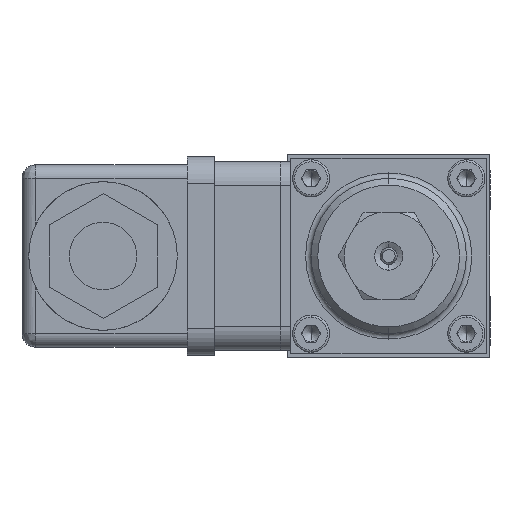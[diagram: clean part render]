
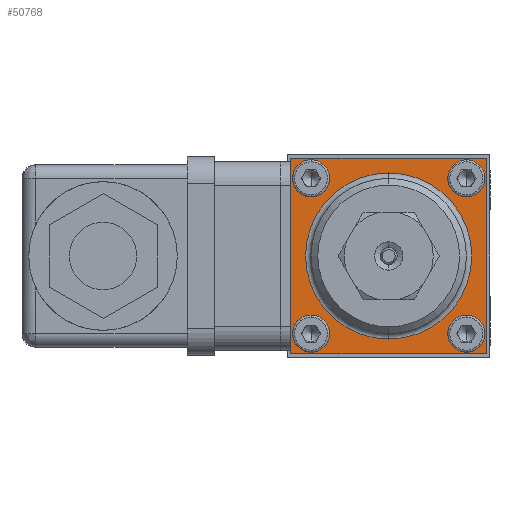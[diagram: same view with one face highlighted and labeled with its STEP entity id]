
A CAD part, left-side view. The second image highlights one B-rep face of the part: STEP entity #50768.
In plain terms, the highlighted planar face has unit normal (-1, 0, 0).
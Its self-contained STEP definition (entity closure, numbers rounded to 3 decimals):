
#605 = ORIENTED_EDGE ( 'NONE', *, *, #33980, .T. ) ;
#1537 = VERTEX_POINT ( 'NONE', #54606 ) ;
#1600 = DIRECTION ( 'NONE',  ( 1., 0., 0. ) ) ;
#2518 = CIRCLE ( 'NONE', #70695, 2.75 ) ;
#2929 = LINE ( 'NONE', #14350, #18624 ) ;
#3414 = AXIS2_PLACEMENT_3D ( 'NONE', #65680, #30337, #71715 ) ;
#3416 = AXIS2_PLACEMENT_3D ( 'NONE', #36971, #1600, #42904 ) ;
#5012 = FACE_BOUND ( 'NONE', #57733, .T. ) ;
#5035 = CIRCLE ( 'NONE', #69188, 2.75 ) ;
#6426 = CARTESIAN_POINT ( 'NONE',  ( -35., 26.5, -26.5 ) ) ;
#9508 = CARTESIAN_POINT ( 'NONE',  ( -35., 15., -15. ) ) ;
#9590 = VERTEX_POINT ( 'NONE', #71893 ) ;
#9738 = AXIS2_PLACEMENT_3D ( 'NONE', #58715, #23371, #64662 ) ;
#9949 = CARTESIAN_POINT ( 'NONE',  ( -35., 29.5, -29.5 ) ) ;
#12369 = DIRECTION ( 'NONE',  ( 0., 0., 1. ) ) ;
#13495 = EDGE_CURVE ( 'NONE', #24941, #9590, #41111, .T. ) ;
#14350 = CARTESIAN_POINT ( 'NONE',  ( -35., -0.207, -29.5 ) ) ;
#14520 = LINE ( 'NONE', #60468, #28409 ) ;
#15445 = DIRECTION ( 'NONE',  ( 0., 0., 1. ) ) ;
#17441 = CARTESIAN_POINT ( 'NONE',  ( -35., 26.5, -3.5 ) ) ;
#17575 = EDGE_CURVE ( 'NONE', #28298, #71263, #65148, .T. ) ;
#18624 = VECTOR ( 'NONE', #73849, 1000. ) ;
#19302 = ORIENTED_EDGE ( 'NONE', *, *, #38219, .T. ) ;
#19479 = DIRECTION ( 'NONE',  ( -1., 0., 0. ) ) ;
#20609 = EDGE_LOOP ( 'NONE', ( #68644, #24915 ) ) ;
#20736 = FACE_OUTER_BOUND ( 'NONE', #48987, .T. ) ;
#21462 = CARTESIAN_POINT ( 'NONE',  ( -35., 15., -27.3 ) ) ;
#23008 = DIRECTION ( 'NONE',  ( 0., 0., 1. ) ) ;
#23155 = EDGE_CURVE ( 'NONE', #72877, #50706, #2518, .T. ) ;
#23241 = CARTESIAN_POINT ( 'NONE',  ( -35., 26.5, -26.5 ) ) ;
#23291 = EDGE_CURVE ( 'NONE', #52520, #1537, #64372, .T. ) ;
#23371 = DIRECTION ( 'NONE',  ( -1., 0., 0. ) ) ;
#24159 = DIRECTION ( 'NONE',  ( 0., 1., 0. ) ) ;
#24748 = CARTESIAN_POINT ( 'NONE',  ( -35., 3.5, -23.75 ) ) ;
#24915 = ORIENTED_EDGE ( 'NONE', *, *, #23155, .F. ) ;
#24941 = VERTEX_POINT ( 'NONE', #36713 ) ;
#27023 = EDGE_CURVE ( 'NONE', #64526, #47846, #14520, .T. ) ;
#27035 = CARTESIAN_POINT ( 'NONE',  ( -35., 15., -2.7 ) ) ;
#28298 = VERTEX_POINT ( 'NONE', #24748 ) ;
#28409 = VECTOR ( 'NONE', #40316, 1000. ) ;
#29151 = CARTESIAN_POINT ( 'NONE',  ( -35., 0.5, -0.5 ) ) ;
#29826 = CARTESIAN_POINT ( 'NONE',  ( -35., -0.207, -0.5 ) ) ;
#30183 = ORIENTED_EDGE ( 'NONE', *, *, #62504, .F. ) ;
#30337 = DIRECTION ( 'NONE',  ( -1., 0., 0. ) ) ;
#30361 = CARTESIAN_POINT ( 'NONE',  ( -35., 0.5, -29.5 ) ) ;
#30588 = LINE ( 'NONE', #66244, #44430 ) ;
#31675 = EDGE_LOOP ( 'NONE', ( #68467, #71894 ) ) ;
#31696 = ORIENTED_EDGE ( 'NONE', *, *, #23291, .F. ) ;
#33672 = PLANE ( 'NONE',  #37215 ) ;
#33930 = DIRECTION ( 'NONE',  ( -1., 0., 0. ) ) ;
#33980 = EDGE_CURVE ( 'NONE', #55370, #47846, #39417, .T. ) ;
#34598 = FACE_BOUND ( 'NONE', #20609, .T. ) ;
#34813 = DIRECTION ( 'NONE',  ( -1., 0., 0. ) ) ;
#36440 = FACE_BOUND ( 'NONE', #31675, .T. ) ;
#36713 = CARTESIAN_POINT ( 'NONE',  ( -35., 26.5, -0.75 ) ) ;
#36971 = CARTESIAN_POINT ( 'NONE',  ( -35., 15., -15. ) ) ;
#37215 = AXIS2_PLACEMENT_3D ( 'NONE', #69339, #33930, #75324 ) ;
#37947 = AXIS2_PLACEMENT_3D ( 'NONE', #9508, #50806, #15445 ) ;
#38219 = EDGE_CURVE ( 'NONE', #62234, #46563, #67020, .T. ) ;
#38398 = CIRCLE ( 'NONE', #44127, 2.75 ) ;
#39417 = LINE ( 'NONE', #29826, #55110 ) ;
#39611 = CIRCLE ( 'NONE', #3416, 12.3 ) ;
#39962 = ORIENTED_EDGE ( 'NONE', *, *, #13495, .F. ) ;
#40316 = DIRECTION ( 'NONE',  ( 0., 0., 1. ) ) ;
#41111 = CIRCLE ( 'NONE', #66266, 2.75 ) ;
#41364 = ORIENTED_EDGE ( 'NONE', *, *, #70932, .F. ) ;
#42479 = CARTESIAN_POINT ( 'NONE',  ( -35., 3.5, -6.25 ) ) ;
#42904 = DIRECTION ( 'NONE',  ( 0., 0., 1. ) ) ;
#43707 = EDGE_CURVE ( 'NONE', #71263, #28298, #74066, .T. ) ;
#44127 = AXIS2_PLACEMENT_3D ( 'NONE', #54859, #19479, #60801 ) ;
#44430 = VECTOR ( 'NONE', #60319, 1000. ) ;
#44721 = CARTESIAN_POINT ( 'NONE',  ( -35., 29.5, -0.5 ) ) ;
#45606 = ORIENTED_EDGE ( 'NONE', *, *, #55504, .T. ) ;
#46563 = VERTEX_POINT ( 'NONE', #27035 ) ;
#47018 = CARTESIAN_POINT ( 'NONE',  ( -35., 26.5, -29.25 ) ) ;
#47751 = DIRECTION ( 'NONE',  ( -1., 0., 0. ) ) ;
#47846 = VERTEX_POINT ( 'NONE', #44721 ) ;
#48987 = EDGE_LOOP ( 'NONE', ( #45606, #605, #62588, #41364 ) ) ;
#49138 = EDGE_CURVE ( 'NONE', #9590, #24941, #61641, .T. ) ;
#49371 = AXIS2_PLACEMENT_3D ( 'NONE', #23241, #34813, #76761 ) ;
#50290 = FACE_BOUND ( 'NONE', #71106, .T. ) ;
#50327 = DIRECTION ( 'NONE',  ( -1., 0., 0. ) ) ;
#50465 = EDGE_CURVE ( 'NONE', #50706, #72877, #38398, .T. ) ;
#50706 = VERTEX_POINT ( 'NONE', #62593 ) ;
#50768 = ADVANCED_FACE ( 'NONE', ( #65993, #36440, #50290, #34598, #20736, #5012 ), #33672, .T. ) ;
#50806 = DIRECTION ( 'NONE',  ( 1., 0., 0. ) ) ;
#52520 = VERTEX_POINT ( 'NONE', #47018 ) ;
#53388 = DIRECTION ( 'NONE',  ( -1., 0., 0. ) ) ;
#53783 = EDGE_LOOP ( 'NONE', ( #39962, #54382 ) ) ;
#54382 = ORIENTED_EDGE ( 'NONE', *, *, #49138, .F. ) ;
#54606 = CARTESIAN_POINT ( 'NONE',  ( -35., 26.5, -23.75 ) ) ;
#54859 = CARTESIAN_POINT ( 'NONE',  ( -35., 3.5, -3.5 ) ) ;
#55110 = VECTOR ( 'NONE', #24159, 1000. ) ;
#55370 = VERTEX_POINT ( 'NONE', #29151 ) ;
#55504 = EDGE_CURVE ( 'NONE', #65728, #55370, #30588, .T. ) ;
#57733 = EDGE_LOOP ( 'NONE', ( #63294, #19302 ) ) ;
#58715 = CARTESIAN_POINT ( 'NONE',  ( -35., 3.5, -26.5 ) ) ;
#58745 = DIRECTION ( 'NONE',  ( 0., 0., 1. ) ) ;
#60313 = AXIS2_PLACEMENT_3D ( 'NONE', #76617, #70611, #70888 ) ;
#60319 = DIRECTION ( 'NONE',  ( 0., 0., 1. ) ) ;
#60468 = CARTESIAN_POINT ( 'NONE',  ( -35., 29.5, -30.207 ) ) ;
#60518 = CARTESIAN_POINT ( 'NONE',  ( -35., 3.5, -29.25 ) ) ;
#60801 = DIRECTION ( 'NONE',  ( 0., 0., 1. ) ) ;
#61641 = CIRCLE ( 'NONE', #3414, 2.75 ) ;
#62234 = VERTEX_POINT ( 'NONE', #21462 ) ;
#62504 = EDGE_CURVE ( 'NONE', #1537, #52520, #5035, .T. ) ;
#62588 = ORIENTED_EDGE ( 'NONE', *, *, #27023, .F. ) ;
#62593 = CARTESIAN_POINT ( 'NONE',  ( -35., 3.5, -0.75 ) ) ;
#62727 = CARTESIAN_POINT ( 'NONE',  ( -35., 3.5, -3.5 ) ) ;
#63294 = ORIENTED_EDGE ( 'NONE', *, *, #71724, .T. ) ;
#64372 = CIRCLE ( 'NONE', #49371, 2.75 ) ;
#64526 = VERTEX_POINT ( 'NONE', #9949 ) ;
#64662 = DIRECTION ( 'NONE',  ( 0., 0., 1. ) ) ;
#65148 = CIRCLE ( 'NONE', #60313, 2.75 ) ;
#65680 = CARTESIAN_POINT ( 'NONE',  ( -35., 26.5, -3.5 ) ) ;
#65728 = VERTEX_POINT ( 'NONE', #30361 ) ;
#65993 = FACE_BOUND ( 'NONE', #53783, .T. ) ;
#66244 = CARTESIAN_POINT ( 'NONE',  ( -35., 0.5, -30.207 ) ) ;
#66266 = AXIS2_PLACEMENT_3D ( 'NONE', #17441, #50327, #58745 ) ;
#67020 = CIRCLE ( 'NONE', #37947, 12.3 ) ;
#68467 = ORIENTED_EDGE ( 'NONE', *, *, #17575, .F. ) ;
#68644 = ORIENTED_EDGE ( 'NONE', *, *, #50465, .F. ) ;
#69188 = AXIS2_PLACEMENT_3D ( 'NONE', #6426, #47751, #12369 ) ;
#69339 = CARTESIAN_POINT ( 'NONE',  ( -35., 26.5, -15. ) ) ;
#70611 = DIRECTION ( 'NONE',  ( -1., 0., 0. ) ) ;
#70695 = AXIS2_PLACEMENT_3D ( 'NONE', #62727, #53388, #23008 ) ;
#70888 = DIRECTION ( 'NONE',  ( 0., 0., 1. ) ) ;
#70932 = EDGE_CURVE ( 'NONE', #65728, #64526, #2929, .T. ) ;
#71106 = EDGE_LOOP ( 'NONE', ( #30183, #31696 ) ) ;
#71263 = VERTEX_POINT ( 'NONE', #60518 ) ;
#71715 = DIRECTION ( 'NONE',  ( 0., 0., 1. ) ) ;
#71724 = EDGE_CURVE ( 'NONE', #46563, #62234, #39611, .T. ) ;
#71893 = CARTESIAN_POINT ( 'NONE',  ( -35., 26.5, -6.25 ) ) ;
#71894 = ORIENTED_EDGE ( 'NONE', *, *, #43707, .F. ) ;
#72877 = VERTEX_POINT ( 'NONE', #42479 ) ;
#73849 = DIRECTION ( 'NONE',  ( 0., 1., 0. ) ) ;
#74066 = CIRCLE ( 'NONE', #9738, 2.75 ) ;
#75324 = DIRECTION ( 'NONE',  ( 0., 0., 1. ) ) ;
#76617 = CARTESIAN_POINT ( 'NONE',  ( -35., 3.5, -26.5 ) ) ;
#76761 = DIRECTION ( 'NONE',  ( 0., 0., 1. ) ) ;
